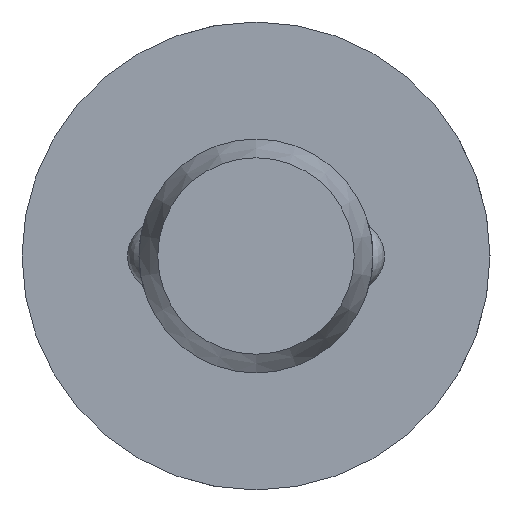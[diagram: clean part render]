
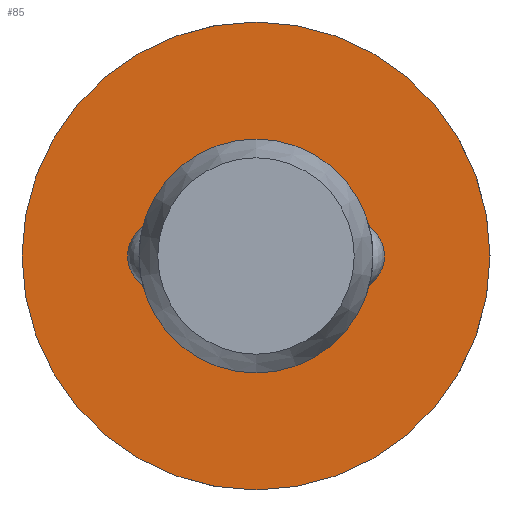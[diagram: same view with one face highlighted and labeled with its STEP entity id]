
A CAD part, left-side view. The second image highlights one B-rep face of the part: STEP entity #85.
In plain terms, the highlighted planar face has unit normal (-1, 0, 0).
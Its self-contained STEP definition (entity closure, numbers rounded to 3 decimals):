
#85 = ADVANCED_FACE( '', ( #131, #132 ), #133, .F. );
#131 = FACE_OUTER_BOUND( '', #204, .T. );
#132 = FACE_BOUND( '', #205, .T. );
#133 = PLANE( '', #206 );
#204 = EDGE_LOOP( '', ( #322 ) );
#205 = EDGE_LOOP( '', ( #323 ) );
#206 = AXIS2_PLACEMENT_3D( '', #324, #325, #326 );
#322 = ORIENTED_EDGE( '', *, *, #470, .F. );
#323 = ORIENTED_EDGE( '', *, *, #467, .T. );
#324 = CARTESIAN_POINT( '', ( 21., 2.5, 0. ) );
#325 = DIRECTION( '', ( 1., 0., 0. ) );
#326 = DIRECTION( '', ( 0., 0., -1. ) );
#467 = EDGE_CURVE( '', #541, #541, #542, .T. );
#470 = EDGE_CURVE( '', #547, #547, #548, .T. );
#541 = VERTEX_POINT( '', #749 );
#542 = CIRCLE( '', #750, 2.5 );
#547 = VERTEX_POINT( '', #801 );
#548 = CIRCLE( '', #802, 5. );
#749 = CARTESIAN_POINT( '', ( 21., 0., -2.5 ) );
#750 = AXIS2_PLACEMENT_3D( '', #881, #882, #883 );
#801 = CARTESIAN_POINT( '', ( 21., 0., -5. ) );
#802 = AXIS2_PLACEMENT_3D( '', #884, #885, #886 );
#881 = CARTESIAN_POINT( '', ( 21., 0., 0. ) );
#882 = DIRECTION( '', ( 1., 0., 0. ) );
#883 = DIRECTION( '', ( 0., 0., -1. ) );
#884 = CARTESIAN_POINT( '', ( 21., 0., 0. ) );
#885 = DIRECTION( '', ( 1., 0., 0. ) );
#886 = DIRECTION( '', ( 0., 0., -1. ) );
